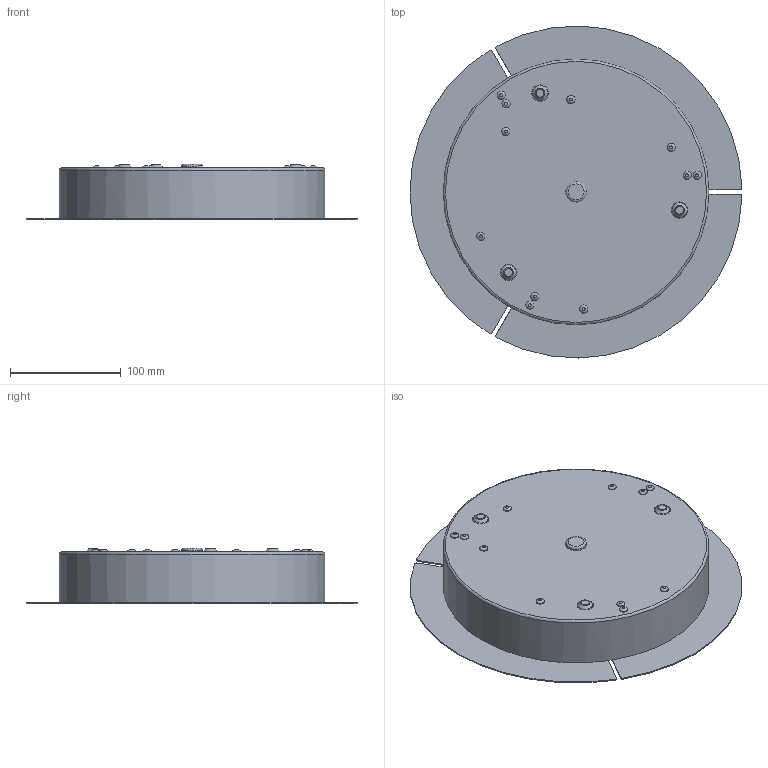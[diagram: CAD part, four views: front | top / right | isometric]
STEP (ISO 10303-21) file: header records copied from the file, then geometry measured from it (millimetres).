
FILE_DESCRIPTION(/* description */ ('Unknown'),/* implementation_level */ '2;1');
FILE_NAME(/* name */ '64578',/* time_stamp */ '2023-02-07T11:23:03-05:00',/* author */ ('Unknown'),/* organization */ ('Unknown'),/* preprocessor_version */ 'ST-DEVELOPER v18.1',/* originating_system */ 'Solid Edge',/* authorisation */ 'Unknown');
FILE_SCHEMA (('AUTOMOTIVE_DESIGN {1 0 10303 214 3 1 1}'));
Length unit declared in the file: millimetre
Products named in the file (1): 64578
Bounding box: 299.95 x 299.97 x 50.5 mm (x, y, z)
Volume: 2153004.7 mm3; surface area: 176401.5 mm2
Topology: 1 solids, 1 shells, 76 faces, 162 edges, 103 vertices
Faces by surface type: plane 29, cylinder 25, torus 19, cone 3
Full cylindrical faces by diameter (mm): 7.3 x11, 18.5 x1, 240 x1
Entity records: 1822 total; most frequent: DIRECTION 350, CARTESIAN_POINT 285, ORIENTED_EDGE 232, AXIS2_PLACEMENT_3D 157, EDGE_LOOP 126, FACE_BOUND 126, EDGE_CURVE 116, VERTEX_POINT 92
